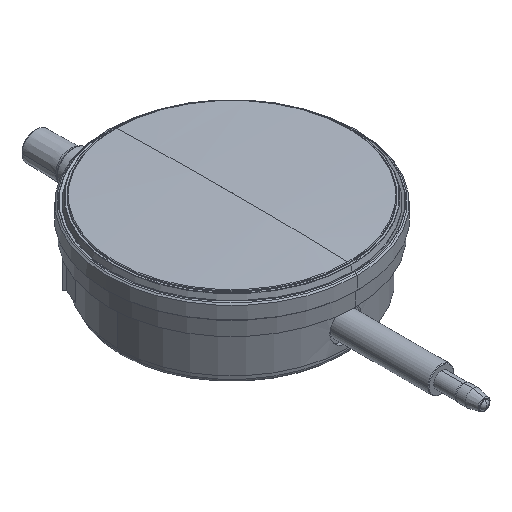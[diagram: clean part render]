
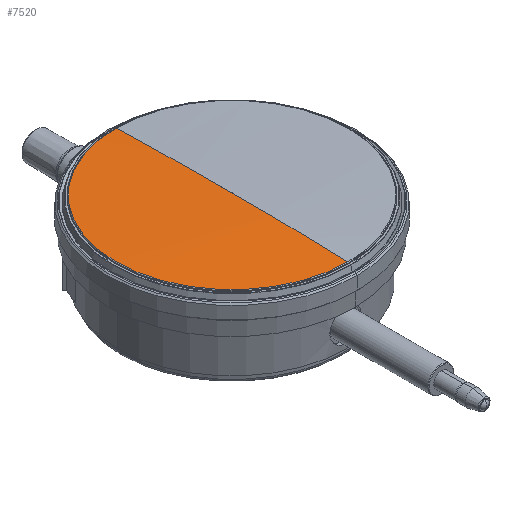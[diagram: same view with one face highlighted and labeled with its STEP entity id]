
A CAD part, isometric view. The second image highlights one B-rep face of the part: STEP entity #7520.
In plain terms, the highlighted spherical face has radius 1100 mm.
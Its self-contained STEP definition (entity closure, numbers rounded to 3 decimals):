
#5390=CARTESIAN_POINT('',(0.,0.,
5.914));
#5400=DIRECTION('',(0.,0.,1.));
#5410=DIRECTION('',(1.,0.,0.));
#5420=AXIS2_PLACEMENT_3D('',#5390,#5400,#5410);
#5430=CIRCLE('',#5420,35.912);
#5440=CARTESIAN_POINT('',(0.,-35.912,
5.914));
#5450=VERTEX_POINT('',#5440);
#5500=CARTESIAN_POINT('',(0.,0.,
-1093.5));
#5510=DIRECTION('',(-1.,0.,0.));
#5520=DIRECTION('',(0.,1.,-0.));
#5530=AXIS2_PLACEMENT_3D('',#5500,#5510,#5520);
#5540=CIRCLE('',#5530,1100.);
#5550=CARTESIAN_POINT('',(0.,0.,
6.5));
#5560=VERTEX_POINT('',#5550);
#5570=EDGE_CURVE('',#5450,#5560,#5540,.T.);
#5590=CARTESIAN_POINT('',(0.,35.912,
5.914));
#5600=VERTEX_POINT('',#5590);
#5610=EDGE_CURVE('',#5560,#5600,#5540,.T.);
#5730=CARTESIAN_POINT('',(-35.912,0.,
5.914));
#5740=VERTEX_POINT('',#5730);
#5750=EDGE_CURVE('',#5600,#5740,#5430,.T.);
#7400=CARTESIAN_POINT('',(0.,0.,
-1093.5));
#7410=DIRECTION('',(0.,0.,-1.));
#7420=DIRECTION('',(0.,-1.,0.));
#7430=AXIS2_PLACEMENT_3D('',#7400,#7410,#7420);
#7440=SPHERICAL_SURFACE('',#7430,1100.);
#7450=EDGE_CURVE('',#5740,#5450,#5430,.T.);
#7460=ORIENTED_EDGE('',*,*,#7450,.T.);
#7470=ORIENTED_EDGE('',*,*,#5750,.T.);
#7480=ORIENTED_EDGE('',*,*,#5610,.T.);
#7490=ORIENTED_EDGE('',*,*,#5570,.T.);
#7500=EDGE_LOOP('',(#7490,#7480,#7470,#7460));
#7510=FACE_OUTER_BOUND('',#7500,.T.);
#7520=ADVANCED_FACE('',(#7510),#7440,.T.);
